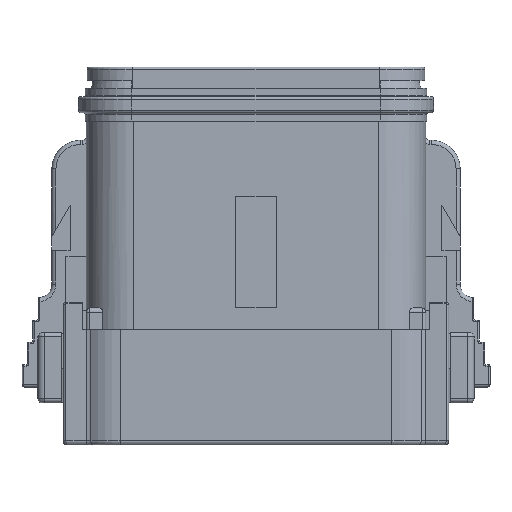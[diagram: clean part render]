
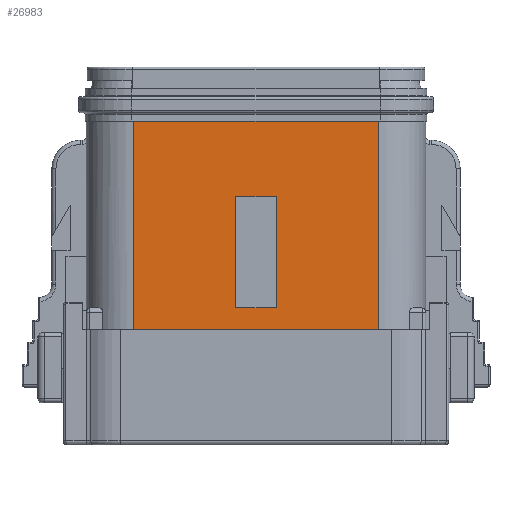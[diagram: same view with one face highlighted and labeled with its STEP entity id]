
A CAD part, front view. The second image highlights one B-rep face of the part: STEP entity #26983.
In plain terms, the highlighted planar face has unit normal (0, -1, 0).
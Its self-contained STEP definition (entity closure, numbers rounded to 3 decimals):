
#2307=DIRECTION('',(1.,0.,0.));
#2308=VECTOR('',#2307,22.885);
#2309=CARTESIAN_POINT('',(-11.443,-9.144,-5.08));
#2310=LINE('',#2309,#2308);
#6231=DIRECTION('',(0.,0.,-1.));
#6232=VECTOR('',#6231,19.507);
#6233=CARTESIAN_POINT('',(11.443,-9.144,-5.08));
#6234=LINE('',#6233,#6232);
#6267=DIRECTION('',(-1.,0.,0.));
#6268=VECTOR('',#6267,3.81);
#6269=CARTESIAN_POINT('',(1.905,-9.144,-12.141));
#6270=LINE('',#6269,#6268);
#6271=DIRECTION('',(0.,0.,-1.));
#6272=VECTOR('',#6271,10.414);
#6273=CARTESIAN_POINT('',(-1.905,-9.144,-12.141));
#6274=LINE('',#6273,#6272);
#6275=DIRECTION('',(1.,0.,0.));
#6276=VECTOR('',#6275,3.81);
#6277=CARTESIAN_POINT('',(-1.905,-9.144,-22.555));
#6278=LINE('',#6277,#6276);
#6279=DIRECTION('',(0.,0.,1.));
#6280=VECTOR('',#6279,10.414);
#6281=CARTESIAN_POINT('',(1.905,-9.144,-22.555));
#6282=LINE('',#6281,#6280);
#6283=DIRECTION('',(1.,0.,0.));
#6284=VECTOR('',#6283,22.885);
#6285=CARTESIAN_POINT('',(-11.443,-9.144,-24.587));
#6286=LINE('',#6285,#6284);
#6287=DIRECTION('',(0.,0.,-1.));
#6288=VECTOR('',#6287,19.507);
#6289=CARTESIAN_POINT('',(-11.443,-9.144,-5.08));
#6290=LINE('',#6289,#6288);
#15261=CARTESIAN_POINT('',(-11.443,-9.144,-5.08));
#15262=VERTEX_POINT('',#15261);
#15263=CARTESIAN_POINT('',(11.443,-9.144,-5.08));
#15264=VERTEX_POINT('',#15263);
#15325=CARTESIAN_POINT('',(1.905,-9.144,-12.141));
#15326=VERTEX_POINT('',#15325);
#15327=CARTESIAN_POINT('',(-1.905,-9.144,-12.141));
#15328=VERTEX_POINT('',#15327);
#15329=CARTESIAN_POINT('',(-1.905,-9.144,-22.555));
#15330=VERTEX_POINT('',#15329);
#15331=CARTESIAN_POINT('',(1.905,-9.144,-22.555));
#15332=VERTEX_POINT('',#15331);
#18023=CARTESIAN_POINT('',(-11.443,-9.144,-24.587));
#18025=VERTEX_POINT('',#18023);
#18030=CARTESIAN_POINT('',(11.443,-9.144,-24.587));
#18031=VERTEX_POINT('',#18030);
#26961=CARTESIAN_POINT('',(-11.443,-9.144,-5.08));
#26962=DIRECTION('',(0.,-1.,0.));
#26963=DIRECTION('',(1.,0.,0.));
#26964=AXIS2_PLACEMENT_3D('',#26961,#26962,#26963);
#26965=PLANE('',#26964);
#26966=ORIENTED_EDGE('',*,*,#21829,.F.);
#26968=ORIENTED_EDGE('',*,*,#26967,.F.);
#26969=ORIENTED_EDGE('',*,*,#21770,.T.);
#26970=ORIENTED_EDGE('',*,*,#26926,.T.);
#26971=EDGE_LOOP('',(#26966,#26968,#26969,#26970));
#26972=FACE_OUTER_BOUND('',#26971,.F.);
#26974=ORIENTED_EDGE('',*,*,#26973,.T.);
#26976=ORIENTED_EDGE('',*,*,#26975,.T.);
#26978=ORIENTED_EDGE('',*,*,#26977,.T.);
#26980=ORIENTED_EDGE('',*,*,#26979,.T.);
#26981=EDGE_LOOP('',(#26974,#26976,#26978,#26980));
#26982=FACE_BOUND('',#26981,.F.);
#26983=ADVANCED_FACE('',(#26972,#26982),#26965,.T.);
#21770=EDGE_CURVE('',#15262,#15264,#2310,.T.);
#21829=EDGE_CURVE('',#18025,#18031,#6286,.T.);
#26926=EDGE_CURVE('',#15264,#18031,#6234,.T.);
#26967=EDGE_CURVE('',#15262,#18025,#6290,.T.);
#26973=EDGE_CURVE('',#15326,#15328,#6270,.T.);
#26975=EDGE_CURVE('',#15328,#15330,#6274,.T.);
#26977=EDGE_CURVE('',#15330,#15332,#6278,.T.);
#26979=EDGE_CURVE('',#15332,#15326,#6282,.T.);
